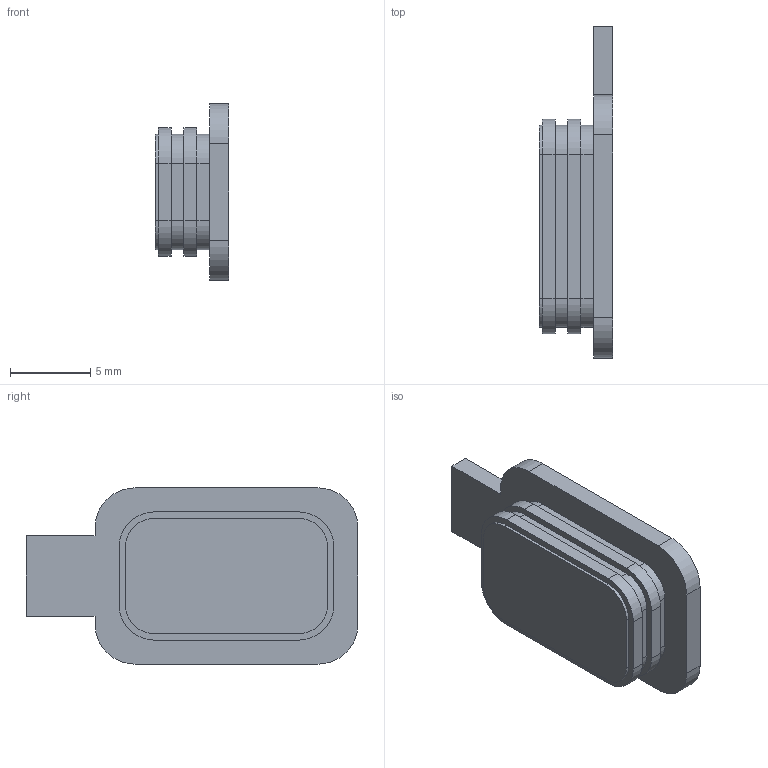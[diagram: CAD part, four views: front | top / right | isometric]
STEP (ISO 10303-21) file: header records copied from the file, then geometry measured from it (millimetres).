
FILE_DESCRIPTION(('Open CASCADE Model'),'2;1');
FILE_NAME('Open CASCADE Shape Model','2026-10-09T15:33:22',('Author'),( 'Open CASCADE'),'Open CASCADE STEP processor 7.9','Open CASCADE 7.9' ,'Unknown');
FILE_SCHEMA(('AUTOMOTIVE_DESIGN { 1 0 10303 214 1 1 1 1 }'));
Length unit declared in the file: millimetre
Products named in the file (1): Open CASCADE STEP translator 7.9 9
Bounding box: 4.6 x 20.7 x 11 mm (x, y, z)
Volume: 559 mm3; surface area: 652.6 mm2
Topology: 1 solids, 1 shells, 59 faces, 156 edges, 104 vertices
Faces by surface type: plane 35, cylinder 24
Entity records: 3948 total; most frequent: CARTESIAN_POINT 776, DIRECTION 612, LINE 372, VECTOR 372, ORIENTED_EDGE 312, PCURVE 312, DEFINITIONAL_REPRESENTATION 312, EDGE_CURVE 156
